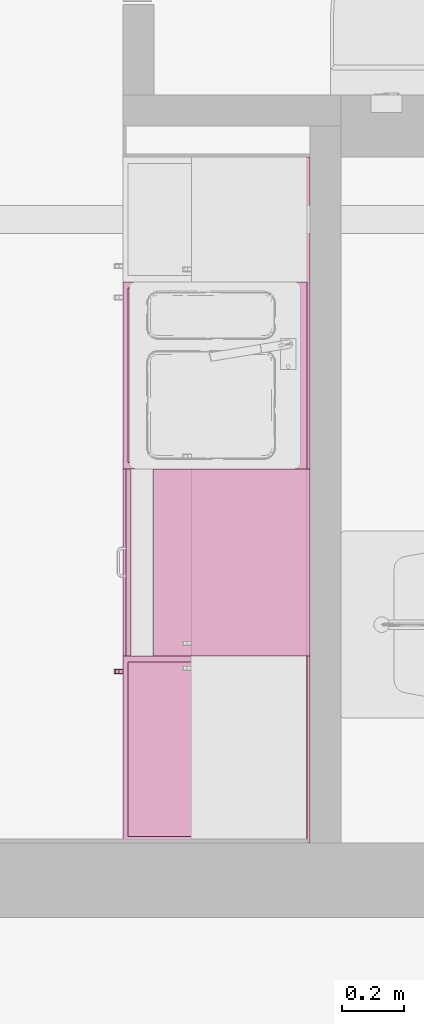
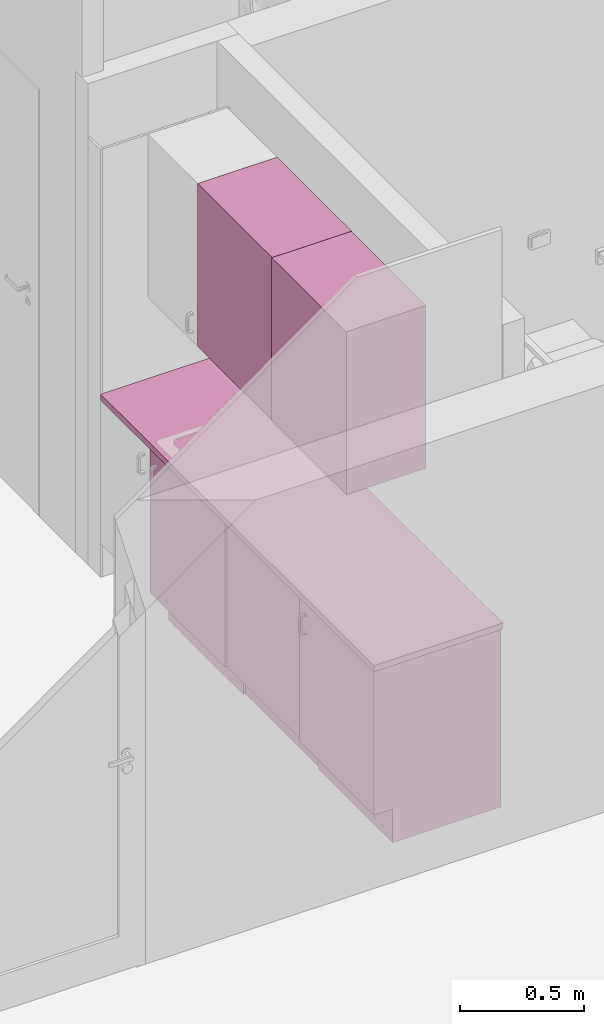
# One storey, part 10 of 15: 7 furnishings.
"""IFC2X3 building model written with IfcOpenShell, lengths in millimetres."""

import ifcopenshell
import ifcopenshell.guid

model = None  # the IFC model being written
_history = None  # IfcOwnerHistory: only IFC2X3 demands one
_inside = {}  # id of a spatial element -> (the spatial element, [elements in it])
_under = {}  # id of a project, library or spatial element -> (it, [spatial elements below it])
_declared = {}  # id of a project -> (the project, [libraries it declares])
_typed = {}  # id of a type object -> (the type object, [elements of that type])
_made_of = {}  # id of a material, layer set ... -> (it, [elements and type objects made of it])


def new_model(schema):
    """Start an empty IFC model of exactly this schema.

    Asked for "IFC4X3", IfcOpenShell would pick the latest addendum, in which some entities
    have other attributes; the version numbers below select the first issue.
    IFC2X3 requires an IfcOwnerHistory on every rooted entity: one is made here for all.
    """
    global model, _history
    if schema == "IFC4X3":
        model = ifcopenshell.file(schema_version=(4, 3, 0, 0))
    else:
        model = ifcopenshell.file(schema=schema)
    _inside.clear()
    _under.clear()
    _declared.clear()
    _typed.clear()
    _made_of.clear()
    _history = None
    if model.schema == "IFC2X3":
        org = make("IfcOrganization", Name="unknown")
        user = make(
            "IfcPersonAndOrganization",
            ThePerson=make("IfcPerson", FamilyName="unknown"),
            TheOrganization=org,
        )
        app = make(
            "IfcApplication",
            ApplicationDeveloper=org,
            Version="unknown",
            ApplicationFullName="unknown",
            ApplicationIdentifier="unknown",
        )
        _history = make(
            "IfcOwnerHistory",
            OwningUser=user,
            OwningApplication=app,
            ChangeAction="ADDED",
            CreationDate=0,
        )
    return model


def make(cls, **values):
    """One entity of the class cls with the attributes given. An attribute that is None is left unset."""
    return model.create_entity(
        cls, **{name: value for name, value in values.items() if value is not None}
    )


def entity(cls, *values):
    """Any entity or typed value of the class cls, its attributes in the order of the schema. None: left unset."""
    e = model.create_entity(cls)
    for i, value in enumerate(values):
        if value is not None:
            e[i] = value
    return e


def rooted(cls, **values):
    """An entity with a GlobalId (a new one), such as an element, a storey or a relation."""
    return make(cls, GlobalId=ifcopenshell.guid.new(), OwnerHistory=_history, **values)


def si_unit(unit_type, name, prefix=None):
    """IfcSIUnit, for example si_unit("LENGTHUNIT", "METRE", prefix="MILLI")."""
    return make("IfcSIUnit", UnitType=unit_type, Prefix=prefix, Name=name)


def converted_unit(unit_type, name, factor, base, dimensions=None, offset=None):
    """IfcConversionBasedUnit, such as the inch: factor (a typed value) times the base unit."""
    return make(
        "IfcConversionBasedUnit"
        if offset is None
        else "IfcConversionBasedUnitWithOffset",
        ConversionOffset=offset,
        Dimensions=None
        if dimensions is None
        else entity("IfcDimensionalExponents", *dimensions),
        UnitType=unit_type,
        Name=name,
        ConversionFactor=make(
            "IfcMeasureWithUnit", ValueComponent=factor, UnitComponent=base
        ),
    )


def assignment(units):
    """IfcUnitAssignment: the units of a project."""
    return None if units is None else make("IfcUnitAssignment", Units=units)


def point(xyz):
    """IfcCartesianPoint."""
    return None if xyz is None else make("IfcCartesianPoint", Coordinates=xyz)


def direction(xyz):
    """IfcDirection."""
    return None if xyz is None else make("IfcDirection", DirectionRatios=xyz)


def frame(location, z_axis=None, x_axis=None):
    """IfcAxis2Placement3D, a coordinate frame: its origin and axes. An axis left out is left unset."""
    return make(
        "IfcAxis2Placement3D",
        Location=point(location),
        Axis=direction(z_axis),
        RefDirection=direction(x_axis),
    )


def frame_2d(location, x_axis=None):
    """IfcAxis2Placement2D, a coordinate frame in the plane: its origin and x axis."""
    return make(
        "IfcAxis2Placement2D", Location=point(location), RefDirection=direction(x_axis)
    )


def origin():
    """The frame at (0, 0, 0) with its axes left unset."""
    return frame((0.0, 0.0, 0.0))


def origin_2d_with_axis():
    """The frame at (0, 0) in the plane with the x axis (1, 0) written out."""
    return frame_2d((0.0, 0.0), x_axis=(1.0, 0.0))


def place(relative_to, where):
    """IfcLocalPlacement: puts the frame where relative to a parent placement (None: the world)."""
    return make(
        "IfcLocalPlacement", PlacementRelTo=relative_to, RelativePlacement=where
    )


def context(
    kind, dimensions, precision=None, world=None, true_north=None, identifier=None
):
    """IfcGeometricRepresentationContext, for example the 3D "Model" context."""
    return make(
        "IfcGeometricRepresentationContext",
        ContextIdentifier=identifier,
        ContextType=kind,
        CoordinateSpaceDimension=dimensions,
        Precision=precision,
        WorldCoordinateSystem=world,
        TrueNorth=true_north,
    )


def subcontext(parent, identifier, kind, view, scale=None):
    """IfcGeometricRepresentationSubContext, for example "Body" below "Model"."""
    return make(
        "IfcGeometricRepresentationSubContext",
        ContextIdentifier=identifier,
        ContextType=kind,
        ParentContext=parent,
        TargetScale=scale,
        TargetView=view,
    )


def project(units=None, contexts=None):
    """IfcProject with its units and contexts."""
    return rooted(
        "IfcProject",
        Name="project",
        RepresentationContexts=contexts,
        UnitsInContext=assignment(units),
    )


def spatial(cls, under=None, at=None, **own):
    """A site, building, storey or space (cls), placed at a placement, below another one or the project."""
    s = rooted(cls, ObjectPlacement=at, **own)
    if under is not None:
        _under.setdefault(under.id(), (under, []))[1].append(s)
    return s


def profile(cls, at=None, kind="AREA", **sizes):
    """A parametric profile (cls). Its sizes go by their IFC names, for example OverallWidth=200.0."""
    return make(cls, ProfileType=kind, Position=at, **sizes)


def rectangle(**sizes):
    """IfcRectangleProfileDef."""
    return profile("IfcRectangleProfileDef", **sizes)


def extrude(swept, where, along, depth):
    """IfcExtrudedAreaSolid: the profile swept, set in the frame where, extruded along a direction by depth."""
    return make(
        "IfcExtrudedAreaSolid",
        SweptArea=swept,
        Position=where,
        ExtrudedDirection=direction(along),
        Depth=depth,
    )


def faces_of(points, faces, orient=None, outer=None):
    """IfcFace entities. A face is a list of loops; a loop is a list of indices into points, from 0.

    orient and outer hold one flag for each loop. By default every Orientation is true, the
    first loop of a face is its IfcFaceOuterBound and the others are IfcFaceBound.
    """
    made = []
    for i, loops in enumerate(faces):
        bounds = []
        for j, loop in enumerate(loops):
            is_outer = j == 0 if outer is None else outer[i][j]
            bounds.append(
                make(
                    "IfcFaceOuterBound" if is_outer else "IfcFaceBound",
                    Bound=make("IfcPolyLoop", Polygon=[points[k] for k in loop]),
                    Orientation=True if orient is None else orient[i][j],
                )
            )
        made.append(make("IfcFace", Bounds=bounds))
    return made


def faceted_brep(points, faces, orient=None, outer=None, voids=None):
    """IfcFacetedBrep: a solid bounded by flat faces; with voids (closed shells), ...WithVoids."""
    shared = [point(p) for p in points]
    hull = make("IfcClosedShell", CfsFaces=faces_of(shared, faces, orient, outer))
    if voids is None:
        return make("IfcFacetedBrep", Outer=hull)
    return make(
        "IfcFacetedBrepWithVoids",
        Outer=hull,
        Voids=[
            make(cls, CfsFaces=faces_of(shared, fs, o, b)) for cls, fs, o, b in voids
        ],
    )


def shape(context_of_items, identifier, shape_type, items):
    """IfcShapeRepresentation: the items that make up one representation, for example the "Body"."""
    return make(
        "IfcShapeRepresentation",
        ContextOfItems=context_of_items,
        RepresentationIdentifier=identifier,
        RepresentationType=shape_type,
        Items=items,
    )


def source(mapping_origin, context_of_items, identifier, shape_type, items):
    """IfcRepresentationMap: a shape defined once, which mapped items show again and again."""
    return make(
        "IfcRepresentationMap",
        MappingOrigin=mapping_origin,
        MappedRepresentation=shape(context_of_items, identifier, shape_type, items),
    )


def transform(
    local_origin,
    x_axis=None,
    y_axis=None,
    z_axis=None,
    scale=None,
    scale2=None,
    scale3=None,
    uniform=True,
):
    """IfcCartesianTransformationOperator3D, or its non-uniform kind. x_axis, y_axis, z_axis: its Axis1, 2, 3."""
    if uniform:
        return make(
            "IfcCartesianTransformationOperator3D",
            Axis1=direction(x_axis),
            Axis2=direction(y_axis),
            LocalOrigin=point(local_origin),
            Scale=scale,
            Axis3=direction(z_axis),
        )
    return make(
        "IfcCartesianTransformationOperator3DnonUniform",
        Axis1=direction(x_axis),
        Axis2=direction(y_axis),
        LocalOrigin=point(local_origin),
        Scale=scale,
        Axis3=direction(z_axis),
        Scale2=scale2,
        Scale3=scale3,
    )


def mapped(mapping_source, mapping_target):
    """IfcMappedItem: shows the shape of a source again, moved by a transform."""
    return make(
        "IfcMappedItem", MappingSource=mapping_source, MappingTarget=mapping_target
    )


def material(Name=None, Category=None):
    """IfcMaterial."""
    return make("IfcMaterial", Name=Name, Category=Category)


def material_list(materials):
    """IfcMaterialList."""
    return make("IfcMaterialList", Materials=materials)


def made_of(thing, what):
    """Note that an element or type object is made of a material, layer set ...; save() writes the relation."""
    if what is not None:
        _made_of.setdefault(what.id(), (what, []))[1].append(thing)
    return thing


def type_object(cls, material=None, **own):
    """A type object (cls), such as IfcWallType, which elements share."""
    return made_of(rooted(cls, **own), material)


def type_shapes(of_type, sources):
    """Give a type object the sources (RepresentationMaps) that its elements show as mapped items."""
    of_type.RepresentationMaps = sources


def element(
    cls,
    number,
    at=None,
    inside=None,
    cuts=None,
    type_object=None,
    material=None,
    context=None,
    identifier="Body",
    shape_type=None,
    held_by="IfcProductDefinitionShape",
    body=None,
    shapes=None,
    **own,
):
    """One element of the class cls, such as IfcWall. Its Tag is "e" and its number.

    at: its placement. inside: the storey or other place that contains it. cuts: it is an
    opening in that element (IfcRelVoidsElement). A single representation is given by context,
    identifier, shape_type and body (its items); several are given by shapes. held_by: the class
    of the entity that holds the representations. save() writes the other relations.
    """
    e = rooted(cls, Tag="e%d" % number, ObjectPlacement=at, **own)
    if body is not None:
        shapes = [shape(context, identifier, shape_type, body)]
    if shapes is not None:
        e.Representation = make(held_by, Representations=shapes)
    if inside is not None:
        _inside.setdefault(inside.id(), (inside, []))[1].append(e)
    if cuts is not None:
        rooted(
            "IfcRelVoidsElement", RelatingBuildingElement=cuts, RelatedOpeningElement=e
        )
    if type_object is not None:
        _typed.setdefault(type_object.id(), (type_object, []))[1].append(e)
    return made_of(e, material)


def aggregate(whole, parts):
    """IfcRelAggregates: a whole, such as a stair, and the parts it consists of."""
    return rooted("IfcRelAggregates", RelatingObject=whole, RelatedObjects=parts)


def save(model, path):
    """Write the relations noted so far, then the file.

    IfcRelAggregates (storeys below a building ...), IfcRelContainedInSpatialStructure (elements
    in a storey), IfcRelDefinesByType, IfcRelAssociatesMaterial and IfcRelDeclares: one each for
    every whole, place, type object, material and project.
    """
    for whole, parts in _under.values():
        aggregate(whole, parts)
    for where, things in _inside.values():
        rooted(
            "IfcRelContainedInSpatialStructure",
            RelatedElements=things,
            RelatingStructure=where,
        )
    for kind, things in _typed.values():
        rooted("IfcRelDefinesByType", RelatedObjects=things, RelatingType=kind)
    for what, things in _made_of.values():
        rooted("IfcRelAssociatesMaterial", RelatedObjects=things, RelatingMaterial=what)
    for by, libraries in _declared.values():
        rooted("IfcRelDeclares", RelatingContext=by, RelatedDefinitions=libraries)
    model.write(path)


model = new_model("IFC2X3")

# Units and contexts
model_context = context("Model", 3, precision=0.01, world=origin(), true_north=direction((0.0, 1.0)))
body_context = subcontext(model_context, "Body", "Model", "MODEL_VIEW")
ifc_project = project(units=[si_unit("LENGTHUNIT", "METRE", prefix="MILLI"), si_unit("AREAUNIT", "SQUARE_METRE"), si_unit("VOLUMEUNIT", "CUBIC_METRE"), converted_unit("PLANEANGLEUNIT", "DEGREE", entity("IfcPlaneAngleMeasure", 0.017453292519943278), si_unit("PLANEANGLEUNIT", "RADIAN"), dimensions=[0, 0, 0, 0, 0, 0, 0])], contexts=[model_context])

# Site, building, storey, space
site_placement = place(None, origin())
site = spatial("IfcSite", under=ifc_project, at=site_placement, Name="Default", CompositionType="ELEMENT")
building_placement = place(site_placement, origin())
building = spatial("IfcBuilding", under=site, at=building_placement, CompositionType="ELEMENT")
storey_placement = place(building_placement, origin())
storey = spatial("IfcBuildingStorey", under=building, at=storey_placement, Name="Et. 1", CompositionType="ELEMENT", Elevation=0.0)
space_placement = place(storey_placement, frame((11562.567419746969, 11865.190261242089, 0.0)))
space = spatial("IfcSpace", under=storey, at=space_placement, Name="107", CompositionType="ELEMENT", InteriorOrExteriorSpace="INTERNAL")

# Furnishings
ifc_material_1 = material(Name="Focus - Kjøkken - Front")
ifc_material_2 = material(Name="Focus - Kjøkken - Skapstamme")
ifc_material_list = material_list([ifc_material_1, ifc_material_2])
furniture_type_1 = type_object("IfcFurnitureType", Name="Focus - Kjøkken - Benkeskap  1  dør:600 mm", AssemblyPlace="NOTDEFINED", material=ifc_material_list)
shared_shape_1 = source(origin(), body_context, "Body", "Brep", [
    faceted_brep([(45.41493904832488, -177.81681120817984, 870.0), (-554.585060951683, -177.81681120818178, 870.0), (-554.585060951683, -177.81681120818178, 166.0), (45.414939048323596, -177.81681120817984, 166.0), (45.41493904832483, -161.81681120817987, 870.0), (45.414939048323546, -161.81681120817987, 166.0), (-554.585060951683, -161.8168112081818, 166.0), (-554.585060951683, -161.8168112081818, 870.0)], [[[0, 1, 2, 3]], [[4, 5, 6, 7]], [[3, 5, 4, 0]], [[2, 6, 5, 3]], [[1, 7, 6, 2]], [[0, 4, 7, 1]]]),
    faceted_brep([(45.4149390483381, -751.8168112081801, 166.0), (45.4149390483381, -247.81681120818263, 166.0), (-554.5850609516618, -247.81681120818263, 166.0), (-554.5850609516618, -751.8168112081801, 166.0), (45.4149390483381, -751.8168112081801, 0.0), (-554.5850609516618, -751.8168112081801, 0.0), (-554.5850609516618, -247.81681120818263, 0.0), (45.4149390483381, -247.81681120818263, 0.0)], [[[0, 1, 2, 3]], [[4, 5, 6, 7]], [[3, 5, 4, 0]], [[2, 6, 5, 3]], [[1, 7, 6, 2]], [[0, 4, 7, 1]]]),
    faceted_brep([(-534.585060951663, -177.81681120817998, 870.0), (-534.585060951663, -177.81681120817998, 190.0), (25.414939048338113, -177.81681120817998, 190.0), (25.414939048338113, -177.81681120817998, 870.0), (45.414939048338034, -177.81681120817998, 870.0), (45.414939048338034, -177.81681120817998, 166.0), (-554.585060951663, -177.81681120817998, 166.0), (-554.585060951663, -177.81681120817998, 870.0), (45.414939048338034, -751.8168112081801, 870.0), (-554.585060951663, -751.8168112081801, 870.0), (-554.585060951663, -751.8168112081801, 166.0), (45.414939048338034, -751.8168112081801, 166.0), (25.414939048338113, -735.8168112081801, 870.0), (-534.585060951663, -735.8168112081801, 870.0), (-554.585060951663, -735.8168112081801, 166.0), (45.414939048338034, -735.8168112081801, 166.0), (25.414939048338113, -735.8168112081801, 190.0), (-534.585060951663, -735.8168112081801, 190.0)], [[[0, 1, 2, 3, 4, 5, 6, 7]], [[8, 9, 10, 11]], [[7, 9, 8, 4, 3, 12, 13, 0]], [[6, 14, 10, 9, 7]], [[5, 15, 11, 10, 14, 6]], [[8, 11, 15, 5, 4]], [[2, 16, 12, 3]], [[1, 17, 16, 2]], [[0, 13, 17, 1]], [[12, 16, 17, 13]]]),
])
type_shapes(furniture_type_1, [shared_shape_1])
for number, where, z_axis, x_axis in (
    (1, (4876.183188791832, 542.5850609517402, 0.0), (0.0, 0.0, 1.0), (0.0, 1.0, 0.0)),
    (2, (4876.183188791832, 1742.5850609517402, 0.0), (0.0, 0.0, 1.0), (0.0, 1.0, 0.0)),
):
    element("IfcFurnishingElement", number, at=place(space_placement, frame(where, z_axis=z_axis, x_axis=x_axis)), inside=space, type_object=furniture_type_1, material=ifc_material_list, Name="Focus - Kjøkken - Benkeskap  1  dør:600 mm", context=body_context, shape_type="MappedRepresentation", body=[
        mapped(shared_shape_1, transform((0.0, 0.0, 0.0), scale=1.0)),
    ])
ifc_material_3 = material(Name="Focus - Kjøkken - Håndtak")
furniture_type_2 = type_object("IfcFurnitureType", Name="Focus - Håndtak Skap:Håndtak skap", AssemblyPlace="NOTDEFINED", material=ifc_material_3)
shared_shape_2 = source(origin(), body_context, "Body", "Brep", [
    faceted_brep([(-8.0, 0.0, 2.021099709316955), (-8.0, 0.0, -4.0210997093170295), (8.0, 0.0, -4.0210997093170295), (8.0, 0.0, 2.0210997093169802), (7.414213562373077, 0.0, 3.435313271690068), (6.0, 0.0, 4.021099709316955), (-6.0, 0.0, 4.021099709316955), (-7.414213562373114, 0.0, 3.435313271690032), (-6.0, 0.0, -94.02109970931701), (6.0, 0.0, -94.02109970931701), (7.414213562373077, 0.0, -93.43531327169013), (8.0, 0.0, -92.02109970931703), (8.0, 0.0, -85.97890029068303), (-8.0, 0.0, -85.97890029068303), (-8.0, 0.0, -92.02109970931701), (-7.414213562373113, 0.0, -93.43531327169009), (7.414213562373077, 13.0, 3.4353132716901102), (6.0, 13.0, 4.021099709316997), (8.0, 13.0, 2.0210997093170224), (7.707106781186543, 13.0, 2.728206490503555), (8.0, 13.0, -4.021099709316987), (8.0, 18.641934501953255, -6.358065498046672), (8.0, 20.97890029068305, -12.0), (8.0, 20.978900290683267, -78.0), (8.0, 18.64193450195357, -83.64193450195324), (8.0, 13.0, -85.97890029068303), (8.0, 13.0, -92.02109970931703), (8.0, 15.478603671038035, -90.99442845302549), (8.0, 17.957207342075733, -89.96775719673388), (8.0, 20.435811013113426, -88.94108594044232), (8.0, 22.914414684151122, -87.91441468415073), (8.0, 24.221910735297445, -84.75783998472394), (8.0, 25.52940678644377, -81.60126528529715), (8.0, 27.021099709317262, -78.0), (8.0, 27.021099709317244, -65.65496001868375), (8.0, 27.021099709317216, -57.34504034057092), (8.0, 27.02109970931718, -47.01756015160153), (8.0, 27.02109970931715, -36.69007996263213), (8.0, 27.021099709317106, -24.345039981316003), (8.0, 27.021099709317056, -12.0), (8.0, 25.994428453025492, -9.521396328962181), (8.0, 24.967757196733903, -7.042792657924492), (8.0, 23.941085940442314, -4.564188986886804), (8.0, 22.914414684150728, -2.0855853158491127), (8.0, 19.757839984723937, -0.7780892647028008), (8.0, 16.60126528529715, 0.5294067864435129), (-8.0, 13.0, -4.021099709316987), (-8.0, 13.0, -92.021099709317), (-8.0, 13.0, -85.97890029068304), (-8.0, 18.64193450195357, -83.64193450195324), (-8.0, 20.978900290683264, -78.0), (-8.0, 20.978900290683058, -12.0), (-8.0, 18.641934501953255, -6.358065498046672), (-8.0, 13.0, 2.0210997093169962), (-8.0, 15.478603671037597, 0.9944284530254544), (-8.0, 17.9572073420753, -0.032242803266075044), (-8.0, 20.435811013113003, -1.0589140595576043), (-8.0, 22.914414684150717, -2.0855853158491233), (-8.0, 24.221910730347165, -5.242160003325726), (-8.0, 25.529406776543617, -8.398734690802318), (-8.0, 27.021099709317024, -12.0), (-8.0, 27.021099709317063, -24.345040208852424), (-8.0, 27.0210997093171, -34.67252000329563), (-8.0, 27.02109970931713, -44.99999979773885), (-8.0, 27.021099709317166, -55.32747999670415), (-8.0, 27.0210997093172, -65.65496019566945), (-8.0, 27.021099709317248, -78.0), (-8.0, 25.99442845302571, -80.47860367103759), (-8.0, 24.967757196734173, -82.9572073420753), (-8.0, 23.941085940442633, -85.43581101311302), (-8.0, 22.914414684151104, -87.91441468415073), (-8.0, 19.757839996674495, -89.22191073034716), (-8.0, 16.601265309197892, -90.52940677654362), (-7.414213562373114, 13.0, 3.4353132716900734), (-6.0, 13.0, 4.021099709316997), (-6.523051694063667, 13.0, 3.804444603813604), (7.761199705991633, 19.75591670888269, 1.3575143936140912), (7.776828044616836, 22.64140257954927, -0.588486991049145), (7.832026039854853, 25.954055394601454, -4.794062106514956), (6.765366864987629, 25.00295364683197, -1.6197407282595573), (6.0, 25.18317105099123, -2.734420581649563), (6.0, 24.3286282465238, -0.6713717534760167), (7.148530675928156, 17.923500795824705, 2.864246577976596), (7.138822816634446, 22.341444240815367, 0.575216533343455), (6.0, 20.202530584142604, 1.03771385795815), (7.108929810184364, 27.65191997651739, -6.400304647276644), (6.0, 27.52940678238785, -8.39873470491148), (6.0, 26.674863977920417, -6.335685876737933), (6.0, 26.037713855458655, -4.797469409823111), (6.873580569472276, 26.59747716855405, -3.913704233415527), (6.0, 25.501746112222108, -3.5035288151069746), (7.807346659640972, 27.454202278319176, -8.476170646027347), (7.78360390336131, 16.52927433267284, 2.502698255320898), (6.0, 16.60126529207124, 2.529406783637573), (7.414213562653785, 25.4087319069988, -2.820007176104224), (6.0, 21.496471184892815, 0.5017461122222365), (6.968390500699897, 28.538770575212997, -9.30339655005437), (6.523051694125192, 28.80444460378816, -12.0), (6.0, 29.021099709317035, -12.0), (6.0, 27.847981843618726, -9.167842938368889), (7.414213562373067, 28.43531327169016, -12.0), (6.0, 18.664314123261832, 1.67486397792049), (-6.0, 15.832157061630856, 2.8479818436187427), (-6.0, 16.601265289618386, 2.529406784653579), (-7.76119969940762, 26.357514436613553, -5.2440833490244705), (-7.783603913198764, 27.502698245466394, -8.470725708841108), (-7.10892981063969, 18.599695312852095, 2.651919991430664), (-6.0, 18.664314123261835, 1.67486397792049), (-6.0, 20.202530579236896, 1.0377138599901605), (-7.744591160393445, 19.340507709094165, 1.5930015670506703), (-7.730939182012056, 16.04875454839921, 2.7104148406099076), (-6.76536686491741, 21.540484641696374, 1.3746327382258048), (-6.0, 21.496471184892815, 0.5017461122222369), (-6.0, 22.265579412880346, 0.18317105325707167), (-7.13882282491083, 25.57521654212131, -2.658555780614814), (-7.1485306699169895, 27.864246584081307, -7.076499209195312), (-6.0, 26.037713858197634, -4.797469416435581), (-7.414213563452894, 22.17999279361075, 0.4087319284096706), (-7.776828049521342, 24.411513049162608, -2.35859748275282), (-6.853012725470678, 23.855367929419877, -0.47819170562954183), (-6.0, 27.52940678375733, -8.398734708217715), (-7.414213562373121, 28.43531327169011, -12.0), (-6.0, 24.3286282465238, -0.6713717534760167), (-6.0, 25.501746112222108, -3.503528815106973), (-7.7071067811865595, 27.728206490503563, -12.0), (-6.96839049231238, 15.696603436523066, 3.5387705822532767), (-6.0, 29.021099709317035, -12.0), (-6.0, 26.674863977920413, -6.335685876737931), (7.414213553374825, 28.435313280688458, -29.508780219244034), (7.450985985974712, 28.39755881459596, -41.85381987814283), (6.0, 29.02109970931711, -34.6725200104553), (7.414213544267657, 28.435313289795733, -61.499999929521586), (7.4142135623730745, 28.435313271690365, -78.0), (6.0, 29.021099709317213, -65.65496164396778), (6.0, 29.02109970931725, -78.0), (6.0, 29.02109970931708, -24.345039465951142), (7.707106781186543, 27.728206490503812, -78.0), (6.0, 29.021099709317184, -55.32748109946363), (6.0, 29.02109970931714, -45.00000055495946), (-6.0, 29.02109970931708, -24.345039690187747), (-6.0, 29.02109970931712, -36.69007989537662), (-7.414213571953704, 28.43531326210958, -29.508780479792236), (-7.41421357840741, 28.435313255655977, -61.4999999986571), (-7.414213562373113, 28.43531327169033, -78.0), (-7.3764591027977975, 28.472085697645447, -41.85382016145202), (-6.0, 29.02109970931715, -47.0175595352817), (-6.0, 29.02109970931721, -65.65495979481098), (-6.0, 29.02109970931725, -78.0), (-6.523051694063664, 28.80444460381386, -78.0), (-6.0, 29.021099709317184, -57.345039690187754), (7.7611997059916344, 26.35751439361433, -84.75591670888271), (7.776828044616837, 24.411513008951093, -87.64140257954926), (7.832026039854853, 20.205937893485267, -90.95405539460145), (7.138822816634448, 25.575216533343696, -87.34144424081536), (6.7653668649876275, 23.380259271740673, -90.00295364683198), (6.0, 24.328628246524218, -89.32862824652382), (7.148530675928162, 27.864246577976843, -82.92350079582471), (6.0, 26.037713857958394, -85.2025305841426), (7.108929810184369, 18.599695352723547, -92.6519199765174), (6.0, 16.60126529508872, -92.52940678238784), (6.0, 18.66431412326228, -91.67486397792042), (6.0, 20.202530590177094, -91.03771385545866), (6.0, 22.265579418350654, -90.18317105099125), (7.807346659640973, 16.523829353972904, -92.45420227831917), (7.783603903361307, 27.50269825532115, -81.52927433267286), (6.0, 27.529406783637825, -81.60126529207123), (6.873580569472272, 21.08629576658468, -91.59747716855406), (7.414213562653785, 22.179992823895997, -90.40873190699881), (6.0, 25.50174611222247, -86.49647118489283), (6.968390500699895, 15.69660344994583, -93.538770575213), (6.52305169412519, 13.0, -93.80444460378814), (6.0, 13.0, -94.02109970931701), (6.0, 15.832157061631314, -92.84798184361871), (7.414213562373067, 13.0, -93.43531327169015), (6.0, 26.67486397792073, -83.66431412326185), (6.0, 21.49647118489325, -90.50174611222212), (-6.0, 27.847981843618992, -80.83215706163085), (-6.0, 27.529406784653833, -81.60126528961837), (-7.761199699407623, 19.75591665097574, -91.35751443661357), (-7.783603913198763, 16.529274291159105, -92.50269824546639), (-7.108929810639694, 27.651919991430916, -83.59969531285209), (-6.0, 26.674863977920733, -83.66431412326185), (-6.0, 26.037713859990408, -85.20253057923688), (-7.74459116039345, 26.593001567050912, -84.34050770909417), (-7.730939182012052, 27.71041484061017, -81.04875454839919), (-6.76536686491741, 26.374632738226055, -86.54048464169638), (-6.0, 25.50174611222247, -86.49647118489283), (-6.0, 25.183171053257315, -87.26557941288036), (-7.138822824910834, 22.341444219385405, -90.57521654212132), (-7.148530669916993, 17.923500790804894, -92.8642465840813), (-6.0, 20.202530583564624, -91.03771385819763), (-7.414213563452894, 25.40873192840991, -87.17999279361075), (-7.7768280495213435, 22.641402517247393, -89.41151304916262), (-6.853012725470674, 24.521808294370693, -88.8553679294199), (-6.0, 16.60126529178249, -92.52940678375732), (-7.41421356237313, 13.0, -93.43531327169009), (-6.0, 24.328628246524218, -89.32862824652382), (-6.0, 21.49647118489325, -90.50174611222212), (-7.707106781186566, 13.0, -92.72820649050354), (-6.96839049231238, 28.538770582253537, -80.69660343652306), (-6.0, 13.0, -94.02109970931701), (-6.0, 18.66431412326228, -91.67486397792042)], [[[0, 1, 2, 3, 4, 5, 6, 7]], [[8, 9, 10, 11, 12, 13, 14, 15]], [[5, 4, 16, 17]], [[3, 18, 19, 16, 4]], [[18, 3, 2, 20, 21, 22, 23, 24, 25, 12, 11, 26, 27, 28, 29, 30, 31, 32, 33, 34, 35, 36, 37, 38, 39, 40, 41, 42, 43, 44, 45]], [[20, 2, 1, 46]], [[47, 14, 13, 48, 49, 50, 51, 52, 46, 1, 0, 53, 54, 55, 56, 57, 58, 59, 60, 61, 62, 63, 64, 65, 66, 67, 68, 69, 70, 71, 72]], [[0, 7, 73, 53]], [[6, 74, 75, 73, 7]], [[17, 74, 6, 5]], [[76, 44, 77]], [[42, 41, 78]], [[79, 80, 81]], [[82, 83, 84]], [[85, 86, 87, 88]], [[89, 88, 90, 80]], [[78, 41, 91]], [[45, 76, 92]], [[82, 93, 16]], [[85, 89, 94]], [[83, 81, 95, 84]], [[96, 97, 86]], [[83, 82, 76]], [[78, 77, 42]], [[79, 94, 89]], [[42, 77, 43]], [[82, 16, 92]], [[92, 16, 19, 18]], [[97, 98, 99, 86]], [[91, 39, 100]], [[83, 76, 77]], [[92, 18, 45]], [[83, 77, 94]], [[43, 77, 44]], [[76, 45, 44]], [[92, 76, 82]], [[17, 16, 93]], [[82, 84, 101, 93]], [[79, 83, 94]], [[79, 81, 83]], [[79, 89, 80]], [[89, 85, 88]], [[78, 94, 77]], [[78, 85, 94]], [[85, 78, 91]], [[91, 96, 85]], [[40, 39, 91, 41]], [[100, 97, 96]], [[100, 96, 91]], [[85, 96, 86]], [[20, 46, 52, 21]], [[52, 51, 22, 21]], [[75, 74, 102, 103]], [[59, 104, 105]], [[106, 103, 107, 108]], [[106, 109, 110]], [[111, 108, 112, 113]], [[114, 115, 104]], [[116, 115, 114]], [[117, 56, 109]], [[104, 58, 118]], [[117, 109, 106]], [[111, 119, 117]], [[115, 120, 121]], [[114, 122, 123, 116]], [[119, 111, 113]], [[118, 117, 119]], [[56, 118, 57]], [[115, 121, 105]], [[105, 121, 124, 60]], [[73, 125, 110]], [[106, 110, 125]], [[114, 104, 118]], [[105, 60, 59]], [[119, 114, 118]], [[57, 118, 58]], [[104, 59, 58]], [[105, 104, 115]], [[126, 121, 120]], [[115, 116, 127, 120]], [[111, 106, 108]], [[111, 117, 106]], [[119, 122, 114]], [[122, 119, 113]], [[117, 118, 56]], [[73, 75, 125]], [[125, 75, 103]], [[106, 125, 103]], [[110, 53, 73]], [[109, 56, 55, 54]], [[54, 110, 109]], [[54, 53, 110]], [[123, 122, 81, 80, 90, 88, 87, 86, 99, 98, 126, 120, 127, 116]], [[81, 122, 113, 112, 108, 107, 103, 102, 74, 17, 93, 101, 84, 95]], [[100, 38, 37, 128]], [[128, 129, 130]], [[131, 129, 36]], [[131, 132, 133]], [[132, 134, 133]], [[135, 98, 97, 100]], [[135, 100, 128, 130]], [[131, 36, 35, 34]], [[34, 33, 136, 132]], [[100, 39, 38]], [[132, 131, 34]], [[131, 137, 129]], [[36, 129, 37]], [[129, 137, 138, 130]], [[129, 128, 37]], [[131, 133, 137]], [[23, 22, 51, 50]], [[121, 139, 140, 141]], [[142, 143, 65]], [[142, 144, 145]], [[146, 147, 148, 143]], [[121, 126, 139]], [[143, 66, 65]], [[61, 60, 124, 121]], [[61, 121, 141, 62]], [[142, 145, 149, 146]], [[141, 144, 62]], [[143, 142, 146]], [[142, 64, 144]], [[145, 144, 140]], [[144, 64, 63, 62]], [[144, 141, 140]], [[142, 65, 64]], [[126, 98, 135, 130, 138, 137, 133, 134, 147, 146, 149, 145, 140, 139]], [[150, 31, 151]], [[29, 28, 152]], [[153, 154, 155]], [[156, 153, 157]], [[158, 159, 160, 161]], [[162, 155, 154]], [[152, 28, 163]], [[32, 150, 164]], [[156, 165, 132]], [[158, 166, 167]], [[153, 155, 168, 157]], [[169, 170, 159]], [[153, 156, 150]], [[152, 151, 29]], [[154, 167, 166]], [[29, 151, 30]], [[156, 132, 164]], [[164, 132, 136, 33]], [[170, 171, 172, 159]], [[163, 26, 173]], [[153, 150, 151]], [[164, 33, 32]], [[153, 151, 167]], [[30, 151, 31]], [[150, 32, 31]], [[164, 150, 156]], [[134, 132, 165]], [[156, 157, 174, 165]], [[166, 161, 175, 162]], [[167, 154, 153]], [[154, 166, 162]], [[166, 158, 161]], [[152, 167, 151]], [[152, 158, 167]], [[158, 152, 163]], [[163, 169, 158]], [[27, 26, 163, 28]], [[173, 170, 169]], [[173, 169, 163]], [[158, 169, 159]], [[23, 50, 49, 24]], [[49, 48, 25, 24]], [[148, 147, 176, 177]], [[72, 178, 179]], [[180, 177, 181, 182]], [[180, 183, 184]], [[185, 182, 186, 187]], [[188, 189, 178]], [[190, 189, 188]], [[191, 69, 183]], [[178, 71, 192]], [[191, 183, 180]], [[185, 193, 191]], [[189, 194, 195]], [[188, 196, 197, 190]], [[193, 185, 187]], [[192, 191, 193]], [[69, 192, 70]], [[189, 195, 179]], [[179, 195, 198, 47]], [[143, 199, 184]], [[180, 184, 199]], [[188, 178, 192]], [[179, 47, 72]], [[193, 188, 192]], [[70, 192, 71]], [[178, 72, 71]], [[179, 178, 189]], [[200, 195, 194]], [[189, 190, 201, 194]], [[185, 180, 182]], [[185, 191, 180]], [[193, 196, 188]], [[196, 193, 187]], [[191, 192, 69]], [[143, 148, 199]], [[199, 148, 177]], [[180, 199, 177]], [[184, 66, 143]], [[183, 69, 68, 67]], [[67, 184, 183]], [[67, 66, 184]], [[197, 196, 155, 162, 175, 161, 160, 159, 172, 171, 200, 194, 201, 190]], [[155, 196, 187, 186, 182, 181, 177, 176, 147, 134, 165, 174, 157, 168]], [[171, 170, 173, 10, 9]], [[26, 11, 10, 173]], [[13, 12, 25, 48]], [[47, 198, 195, 15, 14]], [[200, 8, 15, 195]], [[8, 200, 171, 9]]]),
])
type_shapes(furniture_type_2, [shared_shape_2])
furnishing_1_placement = place(space_placement, frame((5038.0, 538.0, 820.0), z_axis=(0.0, 0.0, 1.0), x_axis=(0.0, 1.0, 0.0)))
element("IfcFurnishingElement", 3, at=furnishing_1_placement, inside=space, type_object=furniture_type_2, material=ifc_material_3, Name="Focus - Håndtak Skap:Håndtak skap", context=body_context, shape_type="MappedRepresentation", body=[
    mapped(shared_shape_2, transform((0.0, 0.0, 0.0), scale=1.0)),
])
ifc_material_4 = material(Name="Focus - Material - Benkeplate")
furniture_type_3 = type_object("IfcFurnitureType", Name="Focus - Kjøkken - Benkeplate:Focus - Kjøkken - Benkeplate", AssemblyPlace="NOTDEFINED", material=ifc_material_4)
shared_shape_3 = source(origin(), body_context, "Body", "SweptSolid", [
    extrude(rectangle(XDim=2199.999999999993, YDim=599.9999999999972, at=origin_2d_with_axis()), frame((1100.0, -300.0, 870.0), z_axis=(0.0, 0.0, 1.0), x_axis=(-1.0, 0.0, 0.0)), (0.0, 0.0, 1.0), 29.999999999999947),
])
type_shapes(furniture_type_3, [shared_shape_3])
furnishing_2_placement = place(space_placement, frame((5638.0, 2188.0, 0.0), z_axis=(0.0, 0.0, 1.0), x_axis=(0.0, -1.0, 0.0)))
element("IfcFurnishingElement", 4, at=furnishing_2_placement, inside=space, type_object=furniture_type_3, material=ifc_material_4, Name="Focus - Kjøkken - Benkeplate:Focus - Kjøkken - Benkeplate", context=body_context, shape_type="MappedRepresentation", body=[
    mapped(shared_shape_3, transform((0.0, 0.0, 0.0), scale=1.0)),
])
furniture_type_4 = type_object("IfcFurnitureType", Name="Focus - Kjøkken - Veggskap 1 dør:600x370x400", AssemblyPlace="NOTDEFINED", material=ifc_material_list)
shared_shape_4 = source(origin(), body_context, "Body", "Brep", [
    faceted_brep([(45.41493904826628, 397.81681120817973, 2100.0), (45.414939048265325, 397.81681120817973, 1300.0), (-554.5850609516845, 397.8168112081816, 1300.0), (-554.5850609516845, 397.8168112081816, 2100.0), (45.41493904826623, 381.8168112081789, 2100.0), (-554.5850609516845, 381.81681120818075, 2100.0), (-554.5850609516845, 381.81681120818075, 1300.0), (45.414939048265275, 381.8168112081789, 1300.0)], [[[0, 1, 2, 3]], [[4, 5, 6, 7]], [[1, 0, 4, 7]], [[2, 1, 7, 6]], [[3, 2, 6, 5]], [[0, 3, 5, 4]]]),
    faceted_brep([(45.41493904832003, 751.816811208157, 2100.0), (-554.5850609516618, 751.816811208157, 2100.0), (-554.5850609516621, 397.8168112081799, 2100.0), (45.4149390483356, 397.8168112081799, 2100.0), (45.41493904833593, 397.8168112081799, 1300.0), (-554.5850609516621, 397.8168112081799, 1300.0), (-554.5850609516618, 751.8168112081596, 1300.0), (45.41493904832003, 751.8168112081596, 1300.0), (-538.5850609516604, 735.8168112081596, 1316.0), (29.414939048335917, 735.8168112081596, 1316.0), (29.414939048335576, 735.816811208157, 2084.0), (-538.5850609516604, 735.816811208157, 2084.0), (29.414939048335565, 397.8168112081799, 2084.0), (29.414939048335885, 397.8168112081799, 1316.0), (-538.5850609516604, 397.8168112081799, 1316.0), (-538.5850609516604, 397.8168112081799, 2084.0)], [[[0, 1, 2, 3]], [[4, 5, 6, 7]], [[1, 0, 7, 6]], [[2, 1, 6, 5]], [[8, 9, 10, 11]], [[0, 3, 4, 7]], [[3, 2, 5, 4], [12, 13, 14, 15]], [[14, 13, 9, 8]], [[15, 14, 8, 11]], [[12, 15, 11, 10]], [[13, 12, 10, 9]]]),
])
type_shapes(furniture_type_4, [shared_shape_4])
for number, where, z_axis, x_axis in (
    (5, (4874.183188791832, 633.4149390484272, 0.0), (0.0, 0.0, 1.0), (0.0, -1.0, 0.0)),
    (6, (4876.183188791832, 1233.4149390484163, 0.0), (0.0, 0.0, 1.0), (0.0, -1.0, 0.0)),
):
    element("IfcFurnishingElement", number, at=place(space_placement, frame(where, z_axis=z_axis, x_axis=x_axis)), inside=space, type_object=furniture_type_4, material=ifc_material_list, Name="Focus - Kjøkken - Veggskap 1 dør:600x370x400", context=body_context, shape_type="MappedRepresentation", body=[
        mapped(shared_shape_4, transform((0.0, 0.0, 0.0), scale=1.0)),
    ])
furniture_type_5 = type_object("IfcFurnitureType", Name="Focus - Kjøkken - Oppvaskmaskin Itegrert:600 mm", AssemblyPlace="NOTDEFINED", material=ifc_material_1)
shared_shape_5 = source(origin(), body_context, "Body", "SweptSolid", [
    extrude(rectangle(XDim=599.9999999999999, YDim=503.9999999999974, at=frame_2d((0.0, 7.105427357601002e-14), x_axis=(1.0, 0.0))), frame((-254.58506095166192, 499.8168112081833, 0.0), z_axis=(0.0, 0.0, 1.0), x_axis=(-1.0, 0.0, 0.0)), (0.0, 0.0, 1.0), 165.99999999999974),
    extrude(rectangle(XDim=16.000000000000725, YDim=599.9999999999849, at=frame_2d((0.0, -5.684341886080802e-14), x_axis=(1.0, 0.0))), frame((-254.58506095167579, 169.81681120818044, 166.0), z_axis=(0.0, 0.0, 1.0), x_axis=(0.0, -1.0, 0.0)), (0.0, 0.0, 1.0), 703.9999999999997),
])
type_shapes(furniture_type_5, [shared_shape_5])
furnishing_3_placement = place(space_placement, frame((4886.18318879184, 633.4149390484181, 0.0), z_axis=(0.0, 0.0, 1.0), x_axis=(0.0, -1.0, 0.0)))
element("IfcFurnishingElement", 7, at=furnishing_3_placement, inside=space, type_object=furniture_type_5, material=ifc_material_1, Name="Focus - Kjøkken - Oppvaskmaskin Itegrert:600 mm", context=body_context, shape_type="MappedRepresentation", body=[
    mapped(shared_shape_5, transform((0.0, 0.0, 0.0), scale=1.0)),
])

save(model, "model.ifc")
